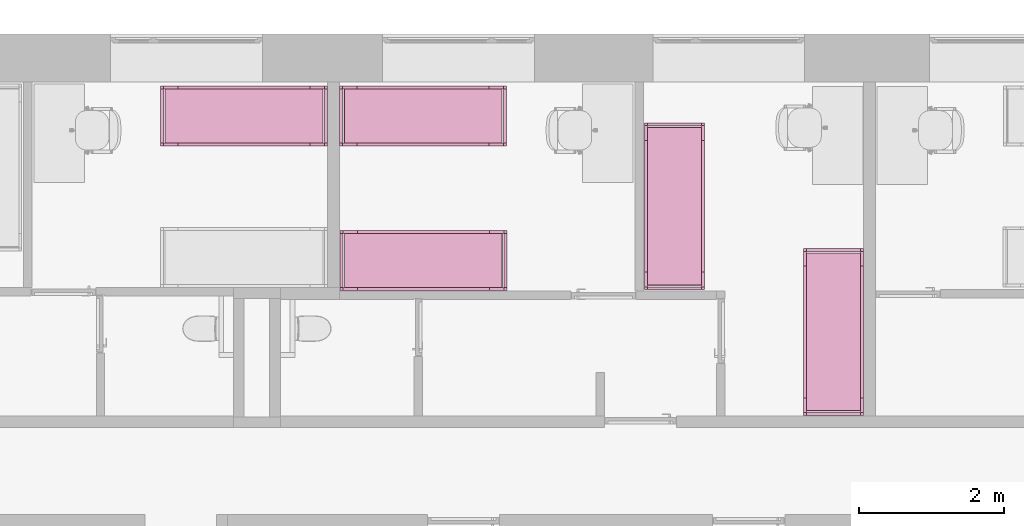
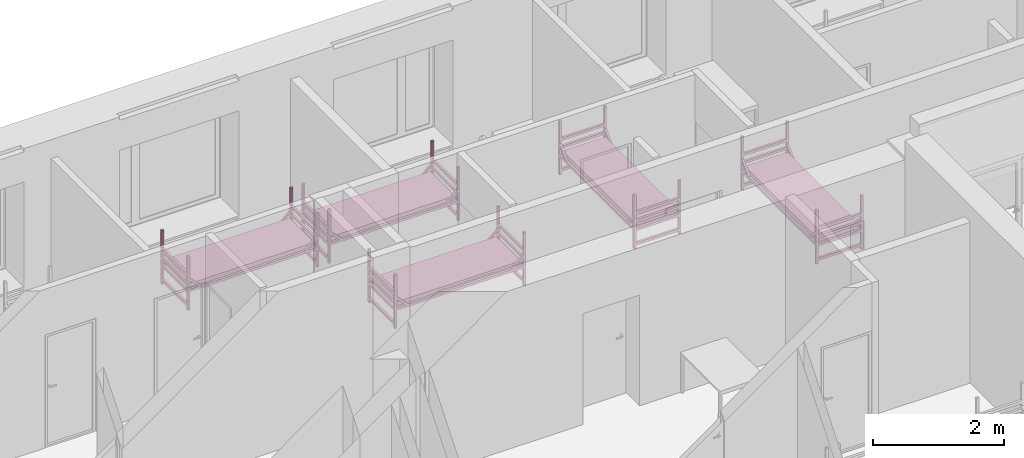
# One storey, part 41 of 46: 5 furnishings.
"""IFC2X3 building model written with IfcOpenShell, lengths in millimetres."""

from ifc_helpers import new_model, entity, si_unit, converted_unit, derived_unit, direction, frame, frame_2d, origin, origin_2d_with_axis, place, context, subcontext, project, spatial, polyline, circle_curve, parameter, trimmed, segment, composite_curve, rectangle, outline, extrude, source, transform, mapped, material, type_object, type_shapes, element, save


model = new_model("IFC2X3")

# Units and contexts
model_context = context("Model", 3, precision=0.01, world=origin(), true_north=direction((6.12303176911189e-17, 1.0)))
body_context = subcontext(model_context, "Body", "Model", "MODEL_VIEW")
ifc_project = project(units=[si_unit("LENGTHUNIT", "METRE", prefix="MILLI"), si_unit("AREAUNIT", "SQUARE_METRE"), si_unit("VOLUMEUNIT", "CUBIC_METRE"), converted_unit("PLANEANGLEUNIT", "DEGREE", entity("IfcRatioMeasure", 0.0174532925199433), si_unit("PLANEANGLEUNIT", "RADIAN"), dimensions=[0, 0, 0, 0, 0, 0, 0]), si_unit("MASSUNIT", "GRAM", prefix="KILO"), derived_unit("MASSDENSITYUNIT", [(si_unit("MASSUNIT", "GRAM", prefix="KILO"), 1), (si_unit("LENGTHUNIT", "METRE"), -3)]), si_unit("TIMEUNIT", "SECOND"), si_unit("FREQUENCYUNIT", "HERTZ"), si_unit("THERMODYNAMICTEMPERATUREUNIT", "DEGREE_CELSIUS"), derived_unit("THERMALTRANSMITTANCEUNIT", [(si_unit("MASSUNIT", "GRAM", prefix="KILO"), 1), (si_unit("THERMODYNAMICTEMPERATUREUNIT", "KELVIN"), -1), (si_unit("TIMEUNIT", "SECOND"), -3)]), derived_unit("VOLUMETRICFLOWRATEUNIT", [(si_unit("LENGTHUNIT", "METRE"), 3), (si_unit("TIMEUNIT", "SECOND"), -1)]), si_unit("ELECTRICCURRENTUNIT", "AMPERE"), si_unit("ELECTRICVOLTAGEUNIT", "VOLT"), si_unit("POWERUNIT", "WATT"), si_unit("FORCEUNIT", "NEWTON", prefix="KILO"), si_unit("ILLUMINANCEUNIT", "LUX"), si_unit("LUMINOUSFLUXUNIT", "LUMEN"), si_unit("LUMINOUSINTENSITYUNIT", "CANDELA"), derived_unit("USERDEFINED", [(si_unit("MASSUNIT", "GRAM", prefix="KILO"), -1), (si_unit("LENGTHUNIT", "METRE"), -2), (si_unit("TIMEUNIT", "SECOND"), 3), (si_unit("LUMINOUSFLUXUNIT", "LUMEN"), 1)]), derived_unit("LINEARVELOCITYUNIT", [(si_unit("LENGTHUNIT", "METRE"), 1), (si_unit("TIMEUNIT", "SECOND"), -1)]), si_unit("PRESSUREUNIT", "PASCAL"), derived_unit("USERDEFINED", [(si_unit("LENGTHUNIT", "METRE"), -2), (si_unit("MASSUNIT", "GRAM", prefix="KILO"), 1), (si_unit("TIMEUNIT", "SECOND"), -2)]), derived_unit("LINEARFORCEUNIT", [(si_unit("MASSUNIT", "GRAM", prefix="KILO"), 1), (si_unit("LENGTHUNIT", "METRE"), 1), (si_unit("TIMEUNIT", "SECOND"), -2), (si_unit("LENGTHUNIT", "METRE"), -1)]), derived_unit("PLANARFORCEUNIT", [(si_unit("MASSUNIT", "GRAM", prefix="KILO"), 1), (si_unit("LENGTHUNIT", "METRE"), 1), (si_unit("TIMEUNIT", "SECOND"), -2), (si_unit("LENGTHUNIT", "METRE"), -2)])], contexts=[model_context])

# Site, building, storey, space
site_placement = place(None, origin())
site = spatial("IfcSite", under=ifc_project, at=site_placement, Name="Default", CompositionType="ELEMENT")
building_placement = place(site_placement, origin())
building = spatial("IfcBuilding", under=site, at=building_placement, Name="SMA ARH", CompositionType="ELEMENT")
storey_placement = place(building_placement, origin())
storey = spatial("IfcBuildingStorey", under=building, at=storey_placement, Name="1 Korrus", CompositionType="ELEMENT", Elevation=0.0)
space_1_placement = place(storey_placement, origin())
space_1 = spatial("IfcSpace", under=storey, at=space_1_placement, Name="1-24", CompositionType="ELEMENT", InteriorOrExteriorSpace="INTERNAL")

# Furnishing
ifc_material = material(Name="Madrats")
furniture_type_1 = type_object("IfcFurnitureType", Name="Kasarmu voodi ühekordne 2308x830:Kasarmu voodi ühekordne 2308x830", material=ifc_material)
shared_shape_1 = source(origin(), body_context, "Body", "SweptSolid", [
    extrude(rectangle(XDim=39.9999999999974, YDim=750.000000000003, at=frame_2d((-1.35003119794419e-13, -2.8421709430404e-14), x_axis=(1.0, 0.0))), frame((1.68638457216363, -1226.7969571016, 55.0), z_axis=(0.0, 0.0, 1.0), x_axis=(0.0, -1.0, 0.0)), (0.0, 0.0, 1.0), 49.9999999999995),
    extrude(rectangle(XDim=39.9999999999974, YDim=750.000000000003, at=frame_2d((-1.35003119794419e-13, -2.8421709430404e-14), x_axis=(1.0, 0.0))), frame((1.68638457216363, -1226.7969571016, 325.0), z_axis=(0.0, 0.0, 1.0), x_axis=(0.0, -1.0, 0.0)), (0.0, 0.0, 1.0), 49.9999999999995),
    extrude(rectangle(XDim=39.9999999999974, YDim=750.000000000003, at=frame_2d((-1.35003119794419e-13, -2.8421709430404e-14), x_axis=(1.0, 0.0))), frame((1.68638457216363, -1226.7969571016, 475.0), z_axis=(0.0, 0.0, 1.0), x_axis=(0.0, -1.0, 0.0)), (0.0, 0.0, 1.0), 49.9999999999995),
    extrude(rectangle(XDim=39.9999999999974, YDim=750.000000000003, at=frame_2d((-1.35003119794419e-13, -2.8421709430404e-14), x_axis=(1.0, 0.0))), frame((1.68638457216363, -1226.7969571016, 625.0), z_axis=(0.0, 0.0, 1.0), x_axis=(0.0, -1.0, 0.0)), (0.0, 0.0, 1.0), 50.0000000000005),
    extrude(rectangle(XDim=39.9999999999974, YDim=750.000000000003, at=frame_2d((1.35003119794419e-13, -2.8421709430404e-14), x_axis=(1.0, 0.0))), frame((1.68638457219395, 1041.2030428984, 55.0), z_axis=(0.0, 0.0, 1.0), x_axis=(0.0, -1.0, 0.0)), (0.0, 0.0, 1.0), 50.0000000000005),
    extrude(rectangle(XDim=39.9999999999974, YDim=750.000000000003, at=frame_2d((1.35003119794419e-13, -2.8421709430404e-14), x_axis=(1.0, 0.0))), frame((1.68638457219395, 1041.2030428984, 325.0), z_axis=(0.0, 0.0, 1.0), x_axis=(0.0, -1.0, 0.0)), (0.0, 0.0, 1.0), 50.0000000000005),
    extrude(rectangle(XDim=39.9999999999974, YDim=750.000000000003, at=frame_2d((1.35003119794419e-13, -2.8421709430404e-14), x_axis=(1.0, 0.0))), frame((1.68638457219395, 1041.2030428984, 475.0), z_axis=(0.0, 0.0, 1.0), x_axis=(0.0, -1.0, 0.0)), (0.0, 0.0, 1.0), 50.0000000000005),
    extrude(rectangle(XDim=39.9999999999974, YDim=750.000000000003, at=frame_2d((1.35003119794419e-13, -2.8421709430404e-14), x_axis=(1.0, 0.0))), frame((1.68638457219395, 1041.2030428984, 625.0), z_axis=(0.0, 0.0, 1.0), x_axis=(0.0, -1.0, 0.0)), (0.0, 0.0, 1.0), 49.9999999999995),
    extrude(outline(composite_curve([segment(trimmed(circle_curve(frame_2d((1085.0, -40.0), x_axis=(1.0, 0.0)), 10.0), [parameter(270.0)], [parameter(0.0)], True, "PARAMETER"), True, "CONTINUOUS"), segment(polyline([(1095.0, -40.0), (1095.0, 40.0)]), True, "CONTINUOUS"), segment(trimmed(circle_curve(frame_2d((1085.0, 40.0), x_axis=(1.0, 0.0)), 10.0), [parameter(0.0)], [parameter(90.0000000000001)], True, "PARAMETER"), True, "CONTINUOUS"), segment(polyline([(1085.0, 50.0), (-1085.0, 50.0)]), True, "CONTINUOUS"), segment(trimmed(circle_curve(frame_2d((-1085.0, 40.0), x_axis=(1.0, 0.0)), 10.0), [parameter(90.0000000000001)], [parameter(180.0)], True, "PARAMETER"), True, "CONTINUOUS"), segment(polyline([(-1095.0, 40.0), (-1095.0, -40.0)]), True, "CONTINUOUS"), segment(trimmed(circle_curve(frame_2d((-1085.0, -40.0), x_axis=(1.0, 0.0)), 10.0), [parameter(180.0)], [parameter(270.0)], True, "PARAMETER"), True, "CONTINUOUS"), segment(polyline([(-1085.0, -50.0), (1085.0, -50.0)]), True, "CONTINUOUS")], self_intersect=False)), frame((-373.313615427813, -92.7969571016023, 405.0), z_axis=(1.0, 0.0, 0.0), x_axis=(0.0, -1.0, 0.0)), (0.0, 0.0, 1.0), 750.000000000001),
    extrude(outline(polyline([(-1114.0, -100.0), (1114.0, -100.0), (1114.0, -50.0), (961.59199141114, -50.0), (1114.0, 100.0), (1114.0, 150.0), (910.789321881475, -50.0), (-910.789321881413, -50.0), (-1114.0, 150.0), (-1114.0, 100.0), (-961.591991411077, -50.0), (-1114.0, -50.0), (-1114.0, -100.0)])), frame((-413.313615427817, -92.7969571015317, 430.0), z_axis=(1.0, 0.0, 0.0), x_axis=(0.0, 1.0, 0.0)), (0.0, 0.0, 1.0), 39.9999999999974),
    extrude(outline(polyline([(-1114.0, -100.0), (1114.0, -100.0), (1114.0, -50.0), (961.591991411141, -50.0), (1114.0, 100.0), (1114.0, 150.0), (910.789321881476, -50.0), (-910.789321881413, -50.0), (-1114.0, 150.0), (-1114.0, 100.0), (-961.591991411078, -50.0), (-1114.0, -50.0), (-1114.0, -100.0)])), frame((376.686384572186, -92.796957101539, 430.0), z_axis=(1.0, 0.0, 0.0), x_axis=(0.0, 1.0, 0.0)), (0.0, 0.0, 1.0), 39.9999999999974),
    extrude(rectangle(XDim=39.9999999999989, YDim=39.9999999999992, at=frame_2d((-6.75015598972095e-14, 0.0), x_axis=(1.0, 0.0))), frame((396.686384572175, -1226.79695710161, 0.0), z_axis=(0.0, 0.0, 1.0), x_axis=(0.0, 1.0, 0.0)), (0.0, 0.0, 1.0), 995.0),
    extrude(rectangle(XDim=39.9999999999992, YDim=39.9999999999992, at=frame_2d((-1.35003119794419e-13, 0.0), x_axis=(1.0, 0.0))), frame((396.686384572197, 1041.20304289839, 0.0), z_axis=(0.0, 0.0, 1.0), x_axis=(0.0, 1.0, 0.0)), (0.0, 0.0, 1.0), 995.0),
    extrude(rectangle(XDim=40.0000000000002, YDim=39.9999999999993, at=frame_2d((-1.35003119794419e-13, 0.0), x_axis=(1.0, 0.0))), frame((-393.313615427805, 1041.2030428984, 0.0), z_axis=(0.0, 0.0, 1.0), x_axis=(0.0, 1.0, 0.0)), (0.0, 0.0, 1.0), 995.0),
    extrude(rectangle(XDim=39.9999999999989, YDim=39.9999999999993, at=frame_2d((-6.75015598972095e-14, 0.0), x_axis=(1.0, 0.0))), frame((-393.313615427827, -1226.7969571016, 0.0), z_axis=(0.0, 0.0, 1.0), x_axis=(0.0, 1.0, 0.0)), (0.0, 0.0, 1.0), 995.0),
])
type_shapes(furniture_type_1, [shared_shape_1])
furnishing_1_placement = place(space_1_placement, frame((22141.2030428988, 12030.0, 0.0), z_axis=(0.0, 0.0, 1.0), x_axis=(0.0, 1.0, 0.0)))
element("IfcFurnishingElement", 1, at=furnishing_1_placement, inside=space_1, type_object=furniture_type_1, material=ifc_material, Name="Kasarmu voodi ühekordne 2308x830:Kasarmu voodi ühekordne 2308x830", ObjectType="Kasarmu voodi ühekordne 2308x830:Kasarmu voodi ühekordne 2308x830", context=body_context, shape_type="MappedRepresentation", body=[
    mapped(shared_shape_1, transform((0.0, 0.0, 0.0), scale=1.0)),
])

# Space
space_2_placement = place(storey_placement, origin())
space_2 = spatial("IfcSpace", under=storey, at=space_2_placement, Name="1-30", CompositionType="ELEMENT", InteriorOrExteriorSpace="INTERNAL")

# Furnishings
furnishing_2_placement = place(space_2_placement, frame((30388.6863845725, 8950.20304289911, 0.0), z_axis=(0.0, 0.0, 1.0), x_axis=(-1.0, 0.0, 0.0)))
element("IfcFurnishingElement", 2, at=furnishing_2_placement, inside=space_2, type_object=furniture_type_1, material=ifc_material, Name="Kasarmu voodi ühekordne 2308x830:Kasarmu voodi ühekordne 2308x830", ObjectType="Kasarmu voodi ühekordne 2308x830:Kasarmu voodi ühekordne 2308x830", context=body_context, shape_type="MappedRepresentation", body=[
    mapped(shared_shape_1, transform((0.0, 0.0, 0.0), scale=1.0)),
])
furnishing_3_placement = place(space_2_placement, frame((28187.0, 10875.0, 0.0)))
element("IfcFurnishingElement", 3, at=furnishing_3_placement, inside=space_2, type_object=furniture_type_1, material=ifc_material, Name="Kasarmu voodi ühekordne 2308x830:Kasarmu voodi ühekordne 2308x830", ObjectType="Kasarmu voodi ühekordne 2308x830:Kasarmu voodi ühekordne 2308x830", context=body_context, shape_type="MappedRepresentation", body=[
    mapped(shared_shape_1, transform((0.0, 0.0, 0.0), scale=1.0)),
])

# Space
space_3_placement = place(storey_placement, origin())
space_3 = spatial("IfcSpace", under=storey, at=space_3_placement, Name="1-29", CompositionType="ELEMENT", InteriorOrExteriorSpace="INTERNAL")

# Furnishings
furniture_type_2 = type_object("IfcFurnitureType", Name="Kasarmu voodi ühekordne 2308x830:Kasarmu voodi ühekordne 2308x830", material=ifc_material)
shared_shape_2 = source(origin(), body_context, "Body", "SweptSolid", [
    extrude(rectangle(XDim=750.000000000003, YDim=39.9999999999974, at=frame_2d((0.0, 1.35003119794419e-13), x_axis=(1.0, 0.0))), frame((1.68638457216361, 1226.7969571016, 55.0)), (0.0, 0.0, 1.0), 49.9999999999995),
    extrude(rectangle(XDim=750.000000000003, YDim=39.9999999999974, at=frame_2d((0.0, 1.35003119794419e-13), x_axis=(1.0, 0.0))), frame((1.68638457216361, 1226.7969571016, 325.0)), (0.0, 0.0, 1.0), 49.9999999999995),
    extrude(rectangle(XDim=750.000000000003, YDim=39.9999999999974, at=frame_2d((0.0, 1.35003119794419e-13), x_axis=(1.0, 0.0))), frame((1.68638457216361, 1226.7969571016, 475.0)), (0.0, 0.0, 1.0), 49.9999999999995),
    extrude(rectangle(XDim=750.000000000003, YDim=39.9999999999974, at=frame_2d((0.0, 1.35003119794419e-13), x_axis=(1.0, 0.0))), frame((1.68638457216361, 1226.7969571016, 625.0)), (0.0, 0.0, 1.0), 50.0000000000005),
    extrude(rectangle(XDim=750.000000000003, YDim=39.9999999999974, at=origin_2d_with_axis()), frame((1.68638457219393, -1041.2030428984, 55.0)), (0.0, 0.0, 1.0), 50.0000000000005),
    extrude(rectangle(XDim=750.000000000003, YDim=39.9999999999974, at=origin_2d_with_axis()), frame((1.68638457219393, -1041.2030428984, 325.0)), (0.0, 0.0, 1.0), 50.0000000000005),
    extrude(rectangle(XDim=750.000000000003, YDim=39.9999999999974, at=origin_2d_with_axis()), frame((1.68638457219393, -1041.2030428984, 475.0)), (0.0, 0.0, 1.0), 50.0000000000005),
    extrude(rectangle(XDim=750.000000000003, YDim=39.9999999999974, at=origin_2d_with_axis()), frame((1.68638457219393, -1041.2030428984, 625.0)), (0.0, 0.0, 1.0), 49.9999999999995),
    extrude(outline(composite_curve([segment(polyline([(-1085.0, -50.0), (1085.0, -50.0)]), True, "CONTINUOUS"), segment(trimmed(circle_curve(frame_2d((1085.0, -40.0), x_axis=(-1.0, 0.0)), 10.0), [parameter(90.0000000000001)], [parameter(180.0)], True, "PARAMETER"), True, "CONTINUOUS"), segment(polyline([(1095.0, -40.0), (1095.0, 40.0)]), True, "CONTINUOUS"), segment(trimmed(circle_curve(frame_2d((1085.0, 40.0), x_axis=(-1.0, 0.0)), 10.0), [parameter(180.0)], [parameter(270.0)], True, "PARAMETER"), True, "CONTINUOUS"), segment(polyline([(1085.0, 50.0), (-1085.0, 50.0)]), True, "CONTINUOUS"), segment(trimmed(circle_curve(frame_2d((-1085.0, 40.0), x_axis=(-1.0, 0.0)), 10.0), [parameter(270.0)], [parameter(0.0)], True, "PARAMETER"), True, "CONTINUOUS"), segment(polyline([(-1095.0, 40.0), (-1095.0, -40.0)]), True, "CONTINUOUS"), segment(trimmed(circle_curve(frame_2d((-1085.0, -40.0), x_axis=(-1.0, 0.0)), 10.0), [parameter(0.0)], [parameter(90.0000000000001)], True, "PARAMETER"), True, "CONTINUOUS")], self_intersect=False)), frame((-373.313615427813, 92.7969571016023, 405.0), z_axis=(1.0, 0.0, 0.0), x_axis=(0.0, -1.0, 0.0)), (0.0, 0.0, 1.0), 750.000000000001),
    extrude(outline(polyline([(-100.0, -1114.0), (-50.0, -1114.0), (-50.0, -961.591991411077), (100.0, -1114.0), (150.0, -1114.0), (-50.0, -910.789321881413), (-50.0, 910.789321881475), (150.0, 1114.0), (100.0, 1114.0), (-50.0, 961.591991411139), (-50.0, 1114.0), (-100.0, 1114.0), (-100.0, -1114.0)])), frame((-413.313615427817, 92.7969571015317, 430.0), z_axis=(1.0, 0.0, 0.0), x_axis=(0.0, 0.0, 1.0)), (0.0, 0.0, 1.0), 39.9999999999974),
    extrude(outline(polyline([(-100.0, -1114.0), (-50.0, -1114.0), (-50.0, -961.591991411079), (100.0, -1114.0), (150.0, -1114.0), (-50.0, -910.789321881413), (-50.0, 910.789321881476), (150.0, 1114.0), (100.0, 1114.0), (-50.0, 961.591991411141), (-50.0, 1114.0), (-100.0, 1114.0), (-100.0, -1114.0)])), frame((376.686384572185, 92.796957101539, 430.0), z_axis=(1.0, 0.0, 0.0), x_axis=(0.0, 0.0, 1.0)), (0.0, 0.0, 1.0), 39.9999999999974),
    extrude(rectangle(XDim=39.9999999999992, YDim=39.9999999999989, at=frame_2d((0.0, -6.75015598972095e-14), x_axis=(1.0, 0.0))), frame((396.686384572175, 1226.79695710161, 0.0), z_axis=(0.0, 0.0, 1.0), x_axis=(-1.0, 0.0, 0.0)), (0.0, 0.0, 1.0), 995.0),
    extrude(rectangle(XDim=39.9999999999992, YDim=39.9999999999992, at=origin_2d_with_axis()), frame((396.686384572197, -1041.20304289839, 0.0), z_axis=(0.0, 0.0, 1.0), x_axis=(-1.0, 0.0, 0.0)), (0.0, 0.0, 1.0), 995.0),
    extrude(rectangle(XDim=39.9999999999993, YDim=40.0000000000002, at=origin_2d_with_axis()), frame((-393.313615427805, -1041.2030428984, 0.0), z_axis=(0.0, 0.0, 1.0), x_axis=(-1.0, 0.0, 0.0)), (0.0, 0.0, 1.0), 995.0),
    extrude(rectangle(XDim=39.9999999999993, YDim=39.9999999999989, at=frame_2d((0.0, -6.75015598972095e-14), x_axis=(1.0, 0.0))), frame((-393.313615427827, 1226.7969571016, 0.0), z_axis=(0.0, 0.0, 1.0), x_axis=(-1.0, 0.0, 0.0)), (0.0, 0.0, 1.0), 995.0),
])
type_shapes(furniture_type_2, [shared_shape_2])
for number, where, z_axis, x_axis, name in (
    (4, (24808.796957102, 10031.3136154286, 0.0), (0.0, 0.0, 1.0), (0.0, 1.0, 0.0), "Kasarmu voodi ühekordne 2308x830:Kasarmu voodi ühekordne 2308x830"),
    (5, (24803.796957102, 12030.0, 0.0), (0.0, 0.0, 1.0), (0.0, 1.0, 0.0), "Kasarmu voodi ühekordne 2308x830:Kasarmu voodi ühekordne 2308x830"),
):
    element("IfcFurnishingElement", number, at=place(space_3_placement, frame(where, z_axis=z_axis, x_axis=x_axis)), inside=space_3, type_object=furniture_type_2, material=ifc_material, Name=name, ObjectType="Kasarmu voodi ühekordne 2308x830:Kasarmu voodi ühekordne 2308x830", context=body_context, shape_type="MappedRepresentation", body=[
        mapped(shared_shape_2, transform((0.0, 0.0, 0.0), scale=1.0)),
    ])

save(model, "model.ifc")
